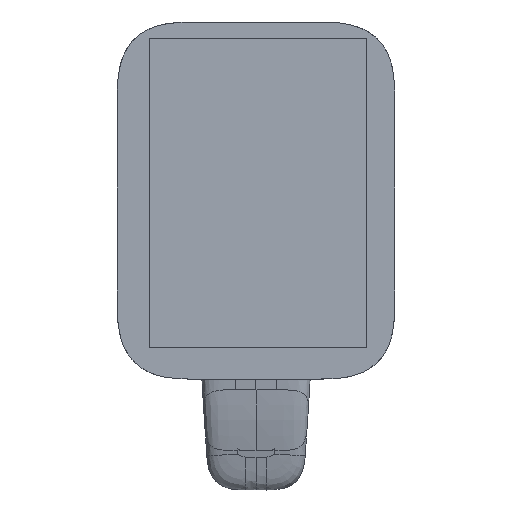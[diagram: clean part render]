
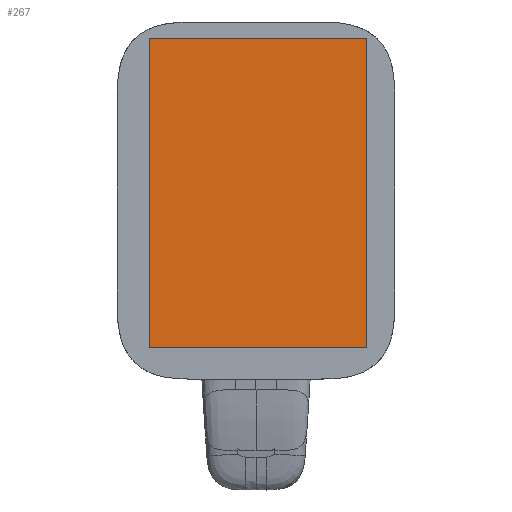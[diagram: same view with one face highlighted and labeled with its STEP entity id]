
A CAD part, left-side view. The second image highlights one B-rep face of the part: STEP entity #267.
In plain terms, the highlighted planar face has unit normal (-1, 0, 0).
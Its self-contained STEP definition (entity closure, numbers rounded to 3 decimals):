
#139=LINE('',#2944,#2524);
#140=LINE('',#2946,#2525);
#143=LINE('',#2947,#2528);
#144=LINE('',#2945,#2529);
#225=PLANE('',#9184);
#267=ADVANCED_FACE('extract',(#409),#225,.T.);
#409=FACE_OUTER_BOUND('',#1792,.T.);
#643=ORIENTED_EDGE('',*,*,#1253,.T.);
#644=ORIENTED_EDGE('',*,*,#1252,.T.);
#645=ORIENTED_EDGE('',*,*,#1257,.T.);
#646=ORIENTED_EDGE('',*,*,#1256,.T.);
#1252=EDGE_CURVE('38',#1583,#1584,#139,.T.);
#1253=EDGE_CURVE('39',#1585,#1583,#140,.T.);
#1256=EDGE_CURVE('42',#1586,#1585,#143,.T.);
#1257=EDGE_CURVE('43',#1584,#1586,#144,.T.);
#1583=VERTEX_POINT('26',#2944);
#1584=VERTEX_POINT('27',#2945);
#1585=VERTEX_POINT('28',#2946);
#1586=VERTEX_POINT('29',#2947);
#1792=EDGE_LOOP('',(#643,#644,#645,#646));
#2524=VECTOR('',#9264,125.936);
#2525=VECTOR('',#9277,88.565);
#2528=VECTOR('',#9275,125.936);
#2529=VECTOR('',#9276,88.565);
#2944=CARTESIAN_POINT('',(58.47,-45.136,-45.096));
#2945=CARTESIAN_POINT('',(58.47,-45.136,80.84));
#2946=CARTESIAN_POINT('',(58.47,43.429,-45.096));
#2947=CARTESIAN_POINT('',(58.47,43.429,80.84));
#9184=AXIS2_PLACEMENT_3D('',#2944,#9266,#9264);
#9264=DIRECTION('',(0.,0.,1.));
#9266=DIRECTION('',(-1.,0.,0.));
#9275=DIRECTION('',(0.,0.,-1.));
#9276=DIRECTION('',(0.,1.,0.));
#9277=DIRECTION('',(0.,-1.,0.));
